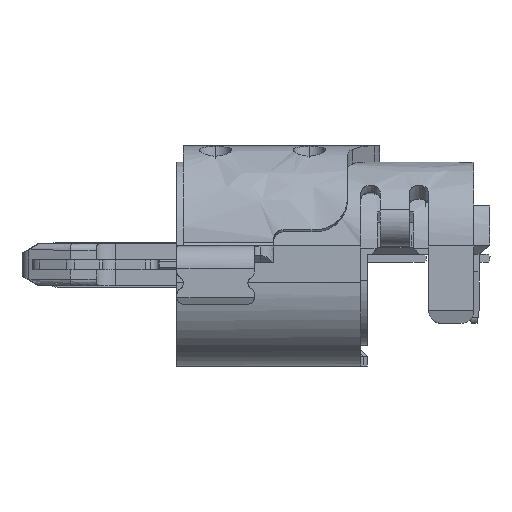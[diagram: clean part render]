
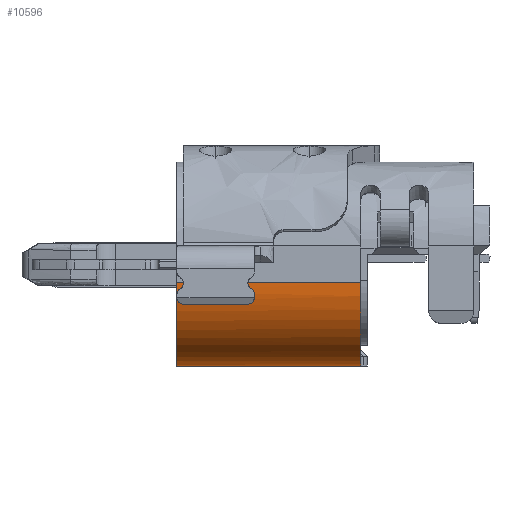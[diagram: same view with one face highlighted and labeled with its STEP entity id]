
A CAD part, left-side view. The second image highlights one B-rep face of the part: STEP entity #10596.
In plain terms, the highlighted free-form (B-spline) face has degree [1, 3] with [2, 4] control points.
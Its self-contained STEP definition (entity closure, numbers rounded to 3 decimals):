
#1441 = LINE ( 'NONE', #31543, #26797 ) ;
#2182 = CARTESIAN_POINT ( 'NONE',  ( 0.171, 1.55, -2.551 ) ) ;
#2380 = ORIENTED_EDGE ( 'NONE', *, *, #21524, .F. ) ;
#2643 = VERTEX_POINT ( 'NONE', #7094 ) ;
#3219 = CARTESIAN_POINT ( 'NONE',  ( -0.059, 4.4, -2.32 ) ) ;
#3593 = CARTESIAN_POINT ( 'NONE',  ( 0.966, 1.55, -2.82 ) ) ;
#3691 = LINE ( 'NONE', #12336, #16376 ) ;
#3718 = FACE_OUTER_BOUND ( 'NONE', #7993, .T. ) ;
#4243 = CARTESIAN_POINT ( 'NONE',  ( 0.992, 4.4, -2.82 ) ) ;
#4715 = CARTESIAN_POINT ( 'NONE',  ( 0.313, 1.55, -2.648 ) ) ;
#5247 = CARTESIAN_POINT ( 'NONE',  ( -0.191, 1.55, -2.091 ) ) ;
#7094 = CARTESIAN_POINT ( 'NONE',  ( 0.98, 4.4, -2.82 ) ) ;
#7993 = EDGE_LOOP ( 'NONE', ( #24258, #18286, #30032, #2380, #25689 ) ) ;
#8794 = CARTESIAN_POINT ( 'NONE',  ( 0.188, 4.4, -2.554 ) ) ;
#9134 = CARTESIAN_POINT ( 'NONE',  ( 0.121, 4.4, -2.499 ) ) ;
#10284 = CARTESIAN_POINT ( 'NONE',  ( 0.621, 1.55, -2.781 ) ) ;
#10303 = CARTESIAN_POINT ( 'NONE',  ( -0.32, 4.4, -1.52 ) ) ;
#10420 = CARTESIAN_POINT ( 'NONE',  ( 0.959, 1.55, -2.82 ) ) ;
#10596 = ADVANCED_FACE ( 'NONE', ( #3718 ), #24692, .F. ) ;
#11032 = B_SPLINE_CURVE_WITH_KNOTS ( 'NONE', 3,
 ( #13553, #29245, #26875, #5247, #18599, #16256, #15897, #2182, #4715, #10284, #27056, #32118 ),
 .UNSPECIFIED., .F., .F.,
 ( 4, 2, 2, 2, 2, 4 ),
 ( 0., 0.001, 0.001, 0.001, 0.002, 0.002 ),
 .UNSPECIFIED. ) ;
#11861 = CARTESIAN_POINT ( 'NONE',  ( 0.329, 4.4, -2.649 ) ) ;
#12336 = CARTESIAN_POINT ( 'NONE',  ( 0.98, 1.391, -2.82 ) ) ;
#13553 = CARTESIAN_POINT ( 'NONE',  ( -0.32, 1.55, -1.52 ) ) ;
#13923 = EDGE_CURVE ( 'NONE', #32680, #23920, #11032, .T. ) ;
#14611 = DIRECTION ( 'NONE',  ( 0., -1., 0. ) ) ;
#14712 = CARTESIAN_POINT ( 'NONE',  ( -0.32, 1.531, -2.287 ) ) ;
#14748 = CARTESIAN_POINT ( 'NONE',  ( -0.286, 4.4, -1.862 ) ) ;
#15880 = VERTEX_POINT ( 'NONE', #19590 ) ;
#15897 = CARTESIAN_POINT ( 'NONE',  ( -0.006, 1.55, -2.372 ) ) ;
#16256 = CARTESIAN_POINT ( 'NONE',  ( -0.06, 1.55, -2.305 ) ) ;
#16376 = VECTOR ( 'NONE', #33979, 1000. ) ;
#17943 = CARTESIAN_POINT ( 'NONE',  ( 0.992, 1.531, -2.82 ) ) ;
#18286 = ORIENTED_EDGE ( 'NONE', *, *, #13923, .F. ) ;
#18599 = CARTESIAN_POINT ( 'NONE',  ( -0.152, 1.55, -2.165 ) ) ;
#19252 = VERTEX_POINT ( 'NONE', #34035 ) ;
#19590 = CARTESIAN_POINT ( 'NONE',  ( -0.32, 4.4, -1.52 ) ) ;
#20512 = CARTESIAN_POINT ( 'NONE',  ( 0.98, 1.548, -2.82 ) ) ;
#21524 = EDGE_CURVE ( 'NONE', #2643, #15880, #32511, .T. ) ;
#22500 = CARTESIAN_POINT ( 'NONE',  ( -0.32, 4.4, -1.692 ) ) ;
#22684 = CARTESIAN_POINT ( 'NONE',  ( -0.156, 4.4, -2.175 ) ) ;
#23033 = CARTESIAN_POINT ( 'NONE',  ( 0.959, 1.55, -2.82 ) ) ;
#23349 = CARTESIAN_POINT ( 'NONE',  ( -0.32, 1.55, -1.52 ) ) ;
#23920 = VERTEX_POINT ( 'NONE', #10420 ) ;
#24258 = ORIENTED_EDGE ( 'NONE', *, *, #31453, .F. ) ;
#24692 =( BOUNDED_SURFACE ( )  B_SPLINE_SURFACE ( 1, 3, ( 
 ( #17943, #29804, #14712, #31313 ),
 ( #4243, #28952, #35019, #10303 ) ),
 .UNSPECIFIED., .F., .F., .F. ) 
 B_SPLINE_SURFACE_WITH_KNOTS ( ( 2, 2 ),
 ( 4, 4 ),
 ( 0.013, 0.981 ),
 ( 0., 1. ),
 .UNSPECIFIED. ) 
 GEOMETRIC_REPRESENTATION_ITEM ( )  RATIONAL_B_SPLINE_SURFACE ( (
 ( 1., 0.803, 0.803, 1.),
 ( 1., 0.803, 0.803, 1.) ) ) 
 REPRESENTATION_ITEM ( '' )  SURFACE ( )  );
#25214 = EDGE_CURVE ( 'NONE', #2643, #19252, #3691, .T. ) ;
#25558 = CARTESIAN_POINT ( 'NONE',  ( 0.808, 4.4, -2.82 ) ) ;
#25573 = CARTESIAN_POINT ( 'NONE',  ( 0.973, 1.549, -2.82 ) ) ;
#25689 = ORIENTED_EDGE ( 'NONE', *, *, #25214, .T. ) ;
#26797 = VECTOR ( 'NONE', #14611, 1000. ) ;
#26875 = CARTESIAN_POINT ( 'NONE',  ( -0.287, 1.55, -1.857 ) ) ;
#27056 = CARTESIAN_POINT ( 'NONE',  ( 0.789, 1.55, -2.817 ) ) ;
#27920 = CARTESIAN_POINT ( 'NONE',  ( 0.98, 4.4, -2.82 ) ) ;
#28624 = CARTESIAN_POINT ( 'NONE',  ( 0.64, 4.4, -2.786 ) ) ;
#28952 = CARTESIAN_POINT ( 'NONE',  ( 0.225, 4.4, -2.827 ) ) ;
#29245 = CARTESIAN_POINT ( 'NONE',  ( -0.32, 1.55, -1.69 ) ) ;
#29804 = CARTESIAN_POINT ( 'NONE',  ( 0.225, 1.531, -2.827 ) ) ;
#30032 = ORIENTED_EDGE ( 'NONE', *, *, #35041, .F. ) ;
#30984 = CARTESIAN_POINT ( 'NONE',  ( 0.404, 4.4, -2.688 ) ) ;
#31313 = CARTESIAN_POINT ( 'NONE',  ( -0.32, 1.531, -1.52 ) ) ;
#31453 = EDGE_CURVE ( 'NONE', #23920, #19252, #31947, .T. ) ;
#31543 = CARTESIAN_POINT ( 'NONE',  ( -0.32, 1.493, -1.52 ) ) ;
#31947 = B_SPLINE_CURVE_WITH_KNOTS ( 'NONE', 3,
 ( #23033, #3593, #25573, #20512 ),
 .UNSPECIFIED., .F., .F.,
 ( 4, 4 ),
 ( 0., 1. ),
 .UNSPECIFIED. ) ;
#32118 = CARTESIAN_POINT ( 'NONE',  ( 0.959, 1.55, -2.82 ) ) ;
#32511 = B_SPLINE_CURVE_WITH_KNOTS ( 'NONE', 3,
 ( #27920, #25558, #28624, #30984, #11861, #8794, #9134, #3219, #22684, #14748, #22500, #33694 ),
 .UNSPECIFIED., .F., .F.,
 ( 4, 2, 2, 2, 2, 4 ),
 ( 0., 0.001, 0.001, 0.001, 0.002, 0.002 ),
 .UNSPECIFIED. ) ;
#32680 = VERTEX_POINT ( 'NONE', #23349 ) ;
#33694 = CARTESIAN_POINT ( 'NONE',  ( -0.32, 4.4, -1.52 ) ) ;
#33979 = DIRECTION ( 'NONE',  ( 0., -1., 0. ) ) ;
#34035 = CARTESIAN_POINT ( 'NONE',  ( 0.98, 1.548, -2.82 ) ) ;
#35019 = CARTESIAN_POINT ( 'NONE',  ( -0.32, 4.4, -2.287 ) ) ;
#35041 = EDGE_CURVE ( 'NONE', #15880, #32680, #1441, .T. ) ;
